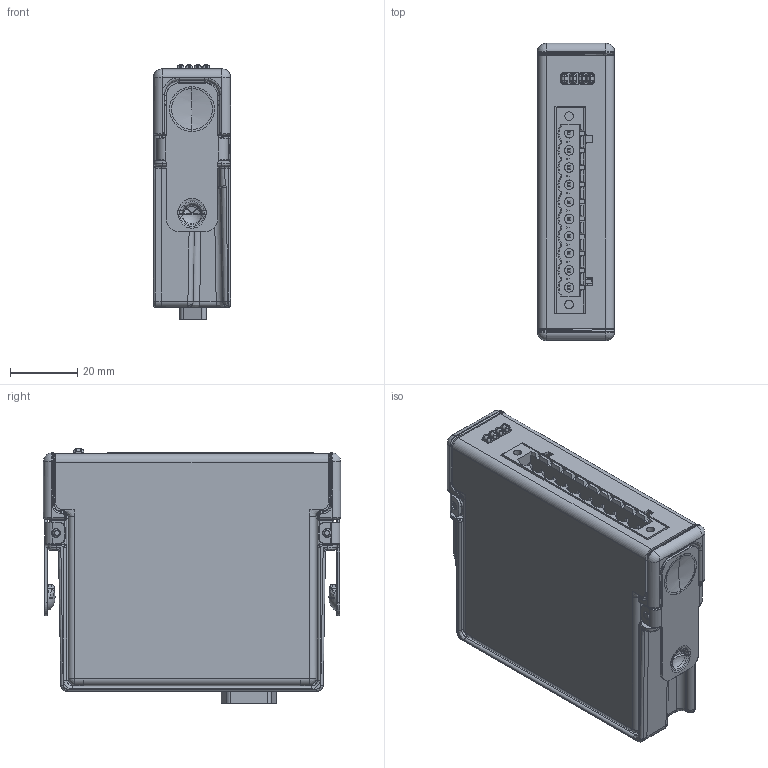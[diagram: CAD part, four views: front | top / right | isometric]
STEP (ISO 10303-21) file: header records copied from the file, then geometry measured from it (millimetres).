
FILE_DESCRIPTION((''),'2;1');
FILE_NAME('CU_CRIO-950X_06-06-2013','2013-06-06T',('jbuhisan'),(''),'PRO/ENGINEER BY PARAMETRIC TECHNOLOGY CORPORATION, 2011490','PRO/ENGINEER BY PARAMETRIC TECHNOLOGY CORPORATION, 2011490','');
FILE_SCHEMA(('CONFIG_CONTROL_DESIGN'));
Products named in the file (1): CU_CRIO-950X_06-06-2013
Bounding box: 22.86 x 88.11 x 75.51 mm (x, y, z)
Surface area: 75262.8 mm2 (no closed solid volume)
Topology: 0 solids, 479 shells, 4710 faces, 13123 edges, 8808 vertices
Faces by surface type: plane 3709, cylinder 528, bspline 301, sphere 73, torus 53, cone 40, extrusion 6
Entity records: 167024 total; most frequent: CARTESIAN_POINT 52657, DIRECTION 22037, ORIENTED_EDGE 21619, EDGE_CURVE 13037, VECTOR 10629, LINE 10623, VERTEX_POINT 8808, AXIS2_PLACEMENT_3D 5704
